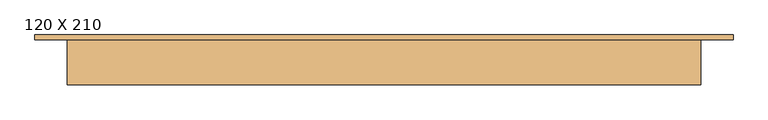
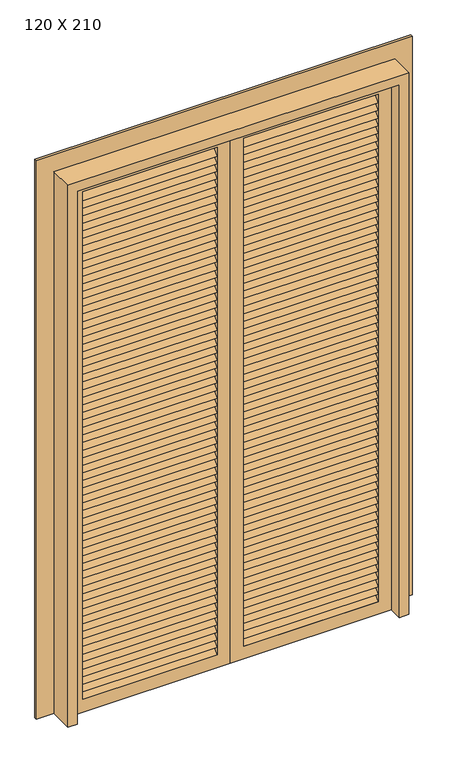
"""IFC4 building model written with IfcOpenShell, lengths in millimetres: door geometry, PORTA VENEZIANA DE ABRIR PARA FORA - 2 FOLHAS : 120 X 210."""

from ifc_helpers import new_model, si_unit, frame, origin, place, context, project, spatial, polyline, outline, extrude, source, transform, mapped, element, save


def door_120_x_210_e39afd73(model_context):
    return source(origin(), model_context, "Body", "SweptSolid", [
        extrude(outline(polyline([(40.0, 1985.2272727), (35.0, 1985.2272727), (70.0, 2020.2272727), (75.0, 2020.2272727), (40.0, 1985.2272727)])), frame((130.0, 0.0, 0.0), z_axis=(1.0, 0.0, 0.0), x_axis=(0.0, 1.0, 0.0)), (0.0, 0.0, 1.0), 500.0),
        extrude(outline(polyline([(40.0, 1955.4545455), (35.0, 1955.4545455), (70.0, 1990.4545455), (75.0, 1990.4545455), (40.0, 1955.4545455)])), frame((130.0, 0.0, 0.0), z_axis=(1.0, 0.0, 0.0), x_axis=(0.0, 1.0, 0.0)), (0.0, 0.0, 1.0), 500.0),
        extrude(outline(polyline([(40.0, 1925.6818182), (35.0, 1925.6818182), (70.0, 1960.6818182), (75.0, 1960.6818182), (40.0, 1925.6818182)])), frame((130.0, 0.0, 0.0), z_axis=(1.0, 0.0, 0.0), x_axis=(0.0, 1.0, 0.0)), (0.0, 0.0, 1.0), 500.0),
        extrude(outline(polyline([(40.0, 1895.9090909), (35.0, 1895.9090909), (70.0, 1930.9090909), (75.0, 1930.9090909), (40.0, 1895.9090909)])), frame((130.0, 0.0, 0.0), z_axis=(1.0, 0.0, 0.0), x_axis=(0.0, 1.0, 0.0)), (0.0, 0.0, 1.0), 500.0),
        extrude(outline(polyline([(40.0, 1866.1363636), (35.0, 1866.1363636), (70.0, 1901.1363636), (75.0, 1901.1363636), (40.0, 1866.1363636)])), frame((130.0, 0.0, 0.0), z_axis=(1.0, 0.0, 0.0), x_axis=(0.0, 1.0, 0.0)), (0.0, 0.0, 1.0), 500.0),
        extrude(outline(polyline([(40.0, 1836.3636364), (35.0, 1836.3636364), (70.0, 1871.3636364), (75.0, 1871.3636364), (40.0, 1836.3636364)])), frame((130.0, 0.0, 0.0), z_axis=(1.0, 0.0, 0.0), x_axis=(0.0, 1.0, 0.0)), (0.0, 0.0, 1.0), 500.0),
        extrude(outline(polyline([(40.0, 1806.5909091), (35.0, 1806.5909091), (70.0, 1841.5909091), (75.0, 1841.5909091), (40.0, 1806.5909091)])), frame((130.0, 0.0, 0.0), z_axis=(1.0, 0.0, 0.0), x_axis=(0.0, 1.0, 0.0)), (0.0, 0.0, 1.0), 500.0),
        extrude(outline(polyline([(40.0, 1776.8181818), (35.0, 1776.8181818), (70.0, 1811.8181818), (75.0, 1811.8181818), (40.0, 1776.8181818)])), frame((130.0, 0.0, 0.0), z_axis=(1.0, 0.0, 0.0), x_axis=(0.0, 1.0, 0.0)), (0.0, 0.0, 1.0), 500.0),
        extrude(outline(polyline([(40.0, 1747.0454545), (35.0, 1747.0454545), (70.0, 1782.0454545), (75.0, 1782.0454545), (40.0, 1747.0454545)])), frame((130.0, 0.0, 0.0), z_axis=(1.0, 0.0, 0.0), x_axis=(0.0, 1.0, 0.0)), (0.0, 0.0, 1.0), 500.0),
        extrude(outline(polyline([(40.0, 1717.2727273), (35.0, 1717.2727273), (70.0, 1752.2727273), (75.0, 1752.2727273), (40.0, 1717.2727273)])), frame((130.0, 0.0, 0.0), z_axis=(1.0, 0.0, 0.0), x_axis=(0.0, 1.0, 0.0)), (0.0, 0.0, 1.0), 500.0),
        extrude(outline(polyline([(40.0, 1687.5), (35.0, 1687.5), (70.0, 1722.5), (75.0, 1722.5), (40.0, 1687.5)])), frame((130.0, 0.0, 0.0), z_axis=(1.0, 0.0, 0.0), x_axis=(0.0, 1.0, 0.0)), (0.0, 0.0, 1.0), 500.0),
        extrude(outline(polyline([(40.0, 1657.7272727), (35.0, 1657.7272727), (70.0, 1692.7272727), (75.0, 1692.7272727), (40.0, 1657.7272727)])), frame((130.0, 0.0, 0.0), z_axis=(1.0, 0.0, 0.0), x_axis=(0.0, 1.0, 0.0)), (0.0, 0.0, 1.0), 500.0),
        extrude(outline(polyline([(40.0, 1627.9545455), (35.0, 1627.9545455), (70.0, 1662.9545455), (75.0, 1662.9545455), (40.0, 1627.9545455)])), frame((130.0, 0.0, 0.0), z_axis=(1.0, 0.0, 0.0), x_axis=(0.0, 1.0, 0.0)), (0.0, 0.0, 1.0), 500.0),
        extrude(outline(polyline([(40.0, 1598.1818182), (35.0, 1598.1818182), (70.0, 1633.1818182), (75.0, 1633.1818182), (40.0, 1598.1818182)])), frame((130.0, 0.0, 0.0), z_axis=(1.0, 0.0, 0.0), x_axis=(0.0, 1.0, 0.0)), (0.0, 0.0, 1.0), 500.0),
        extrude(outline(polyline([(40.0, 1568.4090909), (35.0, 1568.4090909), (70.0, 1603.4090909), (75.0, 1603.4090909), (40.0, 1568.4090909)])), frame((130.0, 0.0, 0.0), z_axis=(1.0, 0.0, 0.0), x_axis=(0.0, 1.0, 0.0)), (0.0, 0.0, 1.0), 500.0),
        extrude(outline(polyline([(40.0, 1538.6363636), (35.0, 1538.6363636), (70.0, 1573.6363636), (75.0, 1573.6363636), (40.0, 1538.6363636)])), frame((130.0, 0.0, 0.0), z_axis=(1.0, 0.0, 0.0), x_axis=(0.0, 1.0, 0.0)), (0.0, 0.0, 1.0), 500.0),
        extrude(outline(polyline([(40.0, 1508.8636364), (35.0, 1508.8636364), (70.0, 1543.8636364), (75.0, 1543.8636364), (40.0, 1508.8636364)])), frame((130.0, 0.0, 0.0), z_axis=(1.0, 0.0, 0.0), x_axis=(0.0, 1.0, 0.0)), (0.0, 0.0, 1.0), 500.0),
        extrude(outline(polyline([(40.0, 1479.0909091), (35.0, 1479.0909091), (70.0, 1514.0909091), (75.0, 1514.0909091), (40.0, 1479.0909091)])), frame((130.0, 0.0, 0.0), z_axis=(1.0, 0.0, 0.0), x_axis=(0.0, 1.0, 0.0)), (0.0, 0.0, 1.0), 500.0),
        extrude(outline(polyline([(40.0, 1449.3181818), (35.0, 1449.3181818), (70.0, 1484.3181818), (75.0, 1484.3181818), (40.0, 1449.3181818)])), frame((130.0, 0.0, 0.0), z_axis=(1.0, 0.0, 0.0), x_axis=(0.0, 1.0, 0.0)), (0.0, 0.0, 1.0), 500.0),
        extrude(outline(polyline([(40.0, 1419.5454545), (35.0, 1419.5454545), (70.0, 1454.5454545), (75.0, 1454.5454545), (40.0, 1419.5454545)])), frame((130.0, 0.0, 0.0), z_axis=(1.0, 0.0, 0.0), x_axis=(0.0, 1.0, 0.0)), (0.0, 0.0, 1.0), 500.0),
        extrude(outline(polyline([(40.0, 1389.7727273), (35.0, 1389.7727273), (70.0, 1424.7727273), (75.0, 1424.7727273), (40.0, 1389.7727273)])), frame((130.0, 0.0, 0.0), z_axis=(1.0, 0.0, 0.0), x_axis=(0.0, 1.0, 0.0)), (0.0, 0.0, 1.0), 500.0),
        extrude(outline(polyline([(40.0, 1360.0), (35.0, 1360.0), (70.0, 1395.0), (75.0, 1395.0), (40.0, 1360.0)])), frame((130.0, 0.0, 0.0), z_axis=(1.0, 0.0, 0.0), x_axis=(0.0, 1.0, 0.0)), (0.0, 0.0, 1.0), 500.0),
        extrude(outline(polyline([(40.0, 1330.2272727), (35.0, 1330.2272727), (70.0, 1365.2272727), (75.0, 1365.2272727), (40.0, 1330.2272727)])), frame((130.0, 0.0, 0.0), z_axis=(1.0, 0.0, 0.0), x_axis=(0.0, 1.0, 0.0)), (0.0, 0.0, 1.0), 500.0),
        extrude(outline(polyline([(40.0, 1300.4545455), (35.0, 1300.4545455), (70.0, 1335.4545455), (75.0, 1335.4545455), (40.0, 1300.4545455)])), frame((130.0, 0.0, 0.0), z_axis=(1.0, 0.0, 0.0), x_axis=(0.0, 1.0, 0.0)), (0.0, 0.0, 1.0), 500.0),
        extrude(outline(polyline([(40.0, 1270.6818182), (35.0, 1270.6818182), (70.0, 1305.6818182), (75.0, 1305.6818182), (40.0, 1270.6818182)])), frame((130.0, 0.0, 0.0), z_axis=(1.0, 0.0, 0.0), x_axis=(0.0, 1.0, 0.0)), (0.0, 0.0, 1.0), 500.0),
        extrude(outline(polyline([(40.0, 1240.9090909), (35.0, 1240.9090909), (70.0, 1275.9090909), (75.0, 1275.9090909), (40.0, 1240.9090909)])), frame((130.0, 0.0, 0.0), z_axis=(1.0, 0.0, 0.0), x_axis=(0.0, 1.0, 0.0)), (0.0, 0.0, 1.0), 500.0),
        extrude(outline(polyline([(40.0, 1211.1363636), (35.0, 1211.1363636), (70.0, 1246.1363636), (75.0, 1246.1363636), (40.0, 1211.1363636)])), frame((130.0, 0.0, 0.0), z_axis=(1.0, 0.0, 0.0), x_axis=(0.0, 1.0, 0.0)), (0.0, 0.0, 1.0), 500.0),
        extrude(outline(polyline([(40.0, 1181.3636364), (35.0, 1181.3636364), (70.0, 1216.3636364), (75.0, 1216.3636364), (40.0, 1181.3636364)])), frame((130.0, 0.0, 0.0), z_axis=(1.0, 0.0, 0.0), x_axis=(0.0, 1.0, 0.0)), (0.0, 0.0, 1.0), 500.0),
        extrude(outline(polyline([(40.0, 1151.5909091), (35.0, 1151.5909091), (70.0, 1186.5909091), (75.0, 1186.5909091), (40.0, 1151.5909091)])), frame((130.0, 0.0, 0.0), z_axis=(1.0, 0.0, 0.0), x_axis=(0.0, 1.0, 0.0)), (0.0, 0.0, 1.0), 500.0),
        extrude(outline(polyline([(40.0, 1121.8181818), (35.0, 1121.8181818), (70.0, 1156.8181818), (75.0, 1156.8181818), (40.0, 1121.8181818)])), frame((130.0, 0.0, 0.0), z_axis=(1.0, 0.0, 0.0), x_axis=(0.0, 1.0, 0.0)), (0.0, 0.0, 1.0), 500.0),
        extrude(outline(polyline([(40.0, 1092.0454545), (35.0, 1092.0454545), (70.0, 1127.0454545), (75.0, 1127.0454545), (40.0, 1092.0454545)])), frame((130.0, 0.0, 0.0), z_axis=(1.0, 0.0, 0.0), x_axis=(0.0, 1.0, 0.0)), (0.0, 0.0, 1.0), 500.0),
        extrude(outline(polyline([(40.0, 1062.2727273), (35.0, 1062.2727273), (70.0, 1097.2727273), (75.0, 1097.2727273), (40.0, 1062.2727273)])), frame((130.0, 0.0, 0.0), z_axis=(1.0, 0.0, 0.0), x_axis=(0.0, 1.0, 0.0)), (0.0, 0.0, 1.0), 500.0),
        extrude(outline(polyline([(40.0, 1032.5), (35.0, 1032.5), (70.0, 1067.5), (75.0, 1067.5), (40.0, 1032.5)])), frame((130.0, 0.0, 0.0), z_axis=(1.0, 0.0, 0.0), x_axis=(0.0, 1.0, 0.0)), (0.0, 0.0, 1.0), 500.0),
        extrude(outline(polyline([(40.0, 1002.7272727), (35.0, 1002.7272727), (70.0, 1037.7272727), (75.0, 1037.7272727), (40.0, 1002.7272727)])), frame((130.0, 0.0, 0.0), z_axis=(1.0, 0.0, 0.0), x_axis=(0.0, 1.0, 0.0)), (0.0, 0.0, 1.0), 500.0),
        extrude(outline(polyline([(40.0, 972.9545455), (35.0, 972.9545455), (70.0, 1007.9545455), (75.0, 1007.9545455), (40.0, 972.9545455)])), frame((130.0, 0.0, 0.0), z_axis=(1.0, 0.0, 0.0), x_axis=(0.0, 1.0, 0.0)), (0.0, 0.0, 1.0), 500.0),
        extrude(outline(polyline([(40.0, 943.1818182), (35.0, 943.1818182), (70.0, 978.1818182), (75.0, 978.1818182), (40.0, 943.1818182)])), frame((130.0, 0.0, 0.0), z_axis=(1.0, 0.0, 0.0), x_axis=(0.0, 1.0, 0.0)), (0.0, 0.0, 1.0), 500.0),
        extrude(outline(polyline([(40.0, 913.4090909), (35.0, 913.4090909), (70.0, 948.4090909), (75.0, 948.4090909), (40.0, 913.4090909)])), frame((130.0, 0.0, 0.0), z_axis=(1.0, 0.0, 0.0), x_axis=(0.0, 1.0, 0.0)), (0.0, 0.0, 1.0), 500.0),
        extrude(outline(polyline([(40.0, 883.6363636), (35.0, 883.6363636), (70.0, 918.6363636), (75.0, 918.6363636), (40.0, 883.6363636)])), frame((130.0, 0.0, 0.0), z_axis=(1.0, 0.0, 0.0), x_axis=(0.0, 1.0, 0.0)), (0.0, 0.0, 1.0), 500.0),
        extrude(outline(polyline([(40.0, 853.8636364), (35.0, 853.8636364), (70.0, 888.8636364), (75.0, 888.8636364), (40.0, 853.8636364)])), frame((130.0, 0.0, 0.0), z_axis=(1.0, 0.0, 0.0), x_axis=(0.0, 1.0, 0.0)), (0.0, 0.0, 1.0), 500.0),
        extrude(outline(polyline([(40.0, 824.0909091), (35.0, 824.0909091), (70.0, 859.0909091), (75.0, 859.0909091), (40.0, 824.0909091)])), frame((130.0, 0.0, 0.0), z_axis=(1.0, 0.0, 0.0), x_axis=(0.0, 1.0, 0.0)), (0.0, 0.0, 1.0), 500.0),
        extrude(outline(polyline([(40.0, 794.3181818), (35.0, 794.3181818), (70.0, 829.3181818), (75.0, 829.3181818), (40.0, 794.3181818)])), frame((130.0, 0.0, 0.0), z_axis=(1.0, 0.0, 0.0), x_axis=(0.0, 1.0, 0.0)), (0.0, 0.0, 1.0), 500.0),
        extrude(outline(polyline([(40.0, 764.5454545), (35.0, 764.5454545), (70.0, 799.5454545), (75.0, 799.5454545), (40.0, 764.5454545)])), frame((130.0, 0.0, 0.0), z_axis=(1.0, 0.0, 0.0), x_axis=(0.0, 1.0, 0.0)), (0.0, 0.0, 1.0), 500.0),
        extrude(outline(polyline([(40.0, 734.7727273), (35.0, 734.7727273), (70.0, 769.7727273), (75.0, 769.7727273), (40.0, 734.7727273)])), frame((130.0, 0.0, 0.0), z_axis=(1.0, 0.0, 0.0), x_axis=(0.0, 1.0, 0.0)), (0.0, 0.0, 1.0), 500.0),
        extrude(outline(polyline([(40.0, 705.0), (35.0, 705.0), (70.0, 740.0), (75.0, 740.0), (40.0, 705.0)])), frame((130.0, 0.0, 0.0), z_axis=(1.0, 0.0, 0.0), x_axis=(0.0, 1.0, 0.0)), (0.0, 0.0, 1.0), 500.0),
        extrude(outline(polyline([(40.0, 675.2272727), (35.0, 675.2272727), (70.0, 710.2272727), (75.0, 710.2272727), (40.0, 675.2272727)])), frame((130.0, 0.0, 0.0), z_axis=(1.0, 0.0, 0.0), x_axis=(0.0, 1.0, 0.0)), (0.0, 0.0, 1.0), 500.0),
        extrude(outline(polyline([(40.0, 645.4545455), (35.0, 645.4545455), (70.0, 680.4545455), (75.0, 680.4545455), (40.0, 645.4545455)])), frame((130.0, 0.0, 0.0), z_axis=(1.0, 0.0, 0.0), x_axis=(0.0, 1.0, 0.0)), (0.0, 0.0, 1.0), 500.0),
        extrude(outline(polyline([(40.0, 615.6818182), (35.0, 615.6818182), (70.0, 650.6818182), (75.0, 650.6818182), (40.0, 615.6818182)])), frame((130.0, 0.0, 0.0), z_axis=(1.0, 0.0, 0.0), x_axis=(0.0, 1.0, 0.0)), (0.0, 0.0, 1.0), 500.0),
        extrude(outline(polyline([(40.0, 585.9090909), (35.0, 585.9090909), (70.0, 620.9090909), (75.0, 620.9090909), (40.0, 585.9090909)])), frame((130.0, 0.0, 0.0), z_axis=(1.0, 0.0, 0.0), x_axis=(0.0, 1.0, 0.0)), (0.0, 0.0, 1.0), 500.0),
        extrude(outline(polyline([(40.0, 556.1363636), (35.0, 556.1363636), (70.0, 591.1363636), (75.0, 591.1363636), (40.0, 556.1363636)])), frame((130.0, 0.0, 0.0), z_axis=(1.0, 0.0, 0.0), x_axis=(0.0, 1.0, 0.0)), (0.0, 0.0, 1.0), 500.0),
        extrude(outline(polyline([(40.0, 526.3636364), (35.0, 526.3636364), (70.0, 561.3636364), (75.0, 561.3636364), (40.0, 526.3636364)])), frame((130.0, 0.0, 0.0), z_axis=(1.0, 0.0, 0.0), x_axis=(0.0, 1.0, 0.0)), (0.0, 0.0, 1.0), 500.0),
        extrude(outline(polyline([(40.0, 496.5909091), (35.0, 496.5909091), (70.0, 531.5909091), (75.0, 531.5909091), (40.0, 496.5909091)])), frame((130.0, 0.0, 0.0), z_axis=(1.0, 0.0, 0.0), x_axis=(0.0, 1.0, 0.0)), (0.0, 0.0, 1.0), 500.0),
        extrude(outline(polyline([(40.0, 466.8181818), (35.0, 466.8181818), (70.0, 501.8181818), (75.0, 501.8181818), (40.0, 466.8181818)])), frame((130.0, 0.0, 0.0), z_axis=(1.0, 0.0, 0.0), x_axis=(0.0, 1.0, 0.0)), (0.0, 0.0, 1.0), 500.0),
        extrude(outline(polyline([(40.0, 437.0454545), (35.0, 437.0454545), (70.0, 472.0454545), (75.0, 472.0454545), (40.0, 437.0454545)])), frame((130.0, 0.0, 0.0), z_axis=(1.0, 0.0, 0.0), x_axis=(0.0, 1.0, 0.0)), (0.0, 0.0, 1.0), 500.0),
        extrude(outline(polyline([(40.0, 407.2727273), (35.0, 407.2727273), (70.0, 442.2727273), (75.0, 442.2727273), (40.0, 407.2727273)])), frame((130.0, 0.0, 0.0), z_axis=(1.0, 0.0, 0.0), x_axis=(0.0, 1.0, 0.0)), (0.0, 0.0, 1.0), 500.0),
        extrude(outline(polyline([(40.0, 377.5), (35.0, 377.5), (70.0, 412.5), (75.0, 412.5), (40.0, 377.5)])), frame((130.0, 0.0, 0.0), z_axis=(1.0, 0.0, 0.0), x_axis=(0.0, 1.0, 0.0)), (0.0, 0.0, 1.0), 500.0),
        extrude(outline(polyline([(40.0, 347.7272727), (35.0, 347.7272727), (70.0, 382.7272727), (75.0, 382.7272727), (40.0, 347.7272727)])), frame((130.0, 0.0, 0.0), z_axis=(1.0, 0.0, 0.0), x_axis=(0.0, 1.0, 0.0)), (0.0, 0.0, 1.0), 500.0),
        extrude(outline(polyline([(40.0, 317.9545455), (35.0, 317.9545455), (70.0, 352.9545455), (75.0, 352.9545455), (40.0, 317.9545455)])), frame((130.0, 0.0, 0.0), z_axis=(1.0, 0.0, 0.0), x_axis=(0.0, 1.0, 0.0)), (0.0, 0.0, 1.0), 500.0),
        extrude(outline(polyline([(40.0, 288.1818182), (35.0, 288.1818182), (70.0, 323.1818182), (75.0, 323.1818182), (40.0, 288.1818182)])), frame((130.0, 0.0, 0.0), z_axis=(1.0, 0.0, 0.0), x_axis=(0.0, 1.0, 0.0)), (0.0, 0.0, 1.0), 500.0),
        extrude(outline(polyline([(40.0, 258.4090909), (35.0, 258.4090909), (70.0, 293.4090909), (75.0, 293.4090909), (40.0, 258.4090909)])), frame((130.0, 0.0, 0.0), z_axis=(1.0, 0.0, 0.0), x_axis=(0.0, 1.0, 0.0)), (0.0, 0.0, 1.0), 500.0),
        extrude(outline(polyline([(40.0, 228.6363636), (35.0, 228.6363636), (70.0, 263.6363636), (75.0, 263.6363636), (40.0, 228.6363636)])), frame((130.0, 0.0, 0.0), z_axis=(1.0, 0.0, 0.0), x_axis=(0.0, 1.0, 0.0)), (0.0, 0.0, 1.0), 500.0),
        extrude(outline(polyline([(40.0, 198.8636364), (35.0, 198.8636364), (70.0, 233.8636364), (75.0, 233.8636364), (40.0, 198.8636364)])), frame((130.0, 0.0, 0.0), z_axis=(1.0, 0.0, 0.0), x_axis=(0.0, 1.0, 0.0)), (0.0, 0.0, 1.0), 500.0),
        extrude(outline(polyline([(40.0, 169.0909091), (35.0, 169.0909091), (70.0, 204.0909091), (75.0, 204.0909091), (40.0, 169.0909091)])), frame((130.0, 0.0, 0.0), z_axis=(1.0, 0.0, 0.0), x_axis=(0.0, 1.0, 0.0)), (0.0, 0.0, 1.0), 500.0),
        extrude(outline(polyline([(40.0, 139.3181818), (35.0, 139.3181818), (70.0, 174.3181818), (75.0, 174.3181818), (40.0, 139.3181818)])), frame((130.0, 0.0, 0.0), z_axis=(1.0, 0.0, 0.0), x_axis=(0.0, 1.0, 0.0)), (0.0, 0.0, 1.0), 500.0),
        extrude(outline(polyline([(40.0, 109.5454545), (35.0, 109.5454545), (70.0, 144.5454545), (75.0, 144.5454545), (40.0, 109.5454545)])), frame((130.0, 0.0, 0.0), z_axis=(1.0, 0.0, 0.0), x_axis=(0.0, 1.0, 0.0)), (0.0, 0.0, 1.0), 500.0),
        extrude(outline(polyline([(40.0, 79.7727273), (35.0, 79.7727273), (70.0, 114.7727273), (75.0, 114.7727273), (40.0, 79.7727273)])), frame((130.0, 0.0, 0.0), z_axis=(1.0, 0.0, 0.0), x_axis=(0.0, 1.0, 0.0)), (0.0, 0.0, 1.0), 500.0),
        extrude(outline(polyline([(40.0, 2015.0), (35.0, 2015.0), (70.0, 2050.0), (75.0, 2050.0), (40.0, 2015.0)])), frame((130.0, 0.0, 0.0), z_axis=(1.0, 0.0, 0.0), x_axis=(0.0, 1.0, 0.0)), (0.0, 0.0, 1.0), 500.0),
        extrude(outline(polyline([(40.0, 50.0), (35.0, 50.0), (70.0, 85.0), (75.0, 85.0), (40.0, 50.0)])), frame((130.0, 0.0, 0.0), z_axis=(1.0, 0.0, 0.0), x_axis=(0.0, 1.0, 0.0)), (0.0, 0.0, 1.0), 500.0),
        extrude(outline(polyline([(2100.0, 80.0), (0.0, 80.0), (0.0, 680.0), (2100.0, 680.0), (2100.0, 80.0)]), holes=[polyline([(2050.0, 130.0), (2050.0, 630.0), (50.0, 630.0), (50.0, 130.0), (2050.0, 130.0)])]), frame((0.0, 35.0, 0.0), z_axis=(0.0, 1.0, 0.0), x_axis=(0.0, 0.0, 1.0)), (0.0, 0.0, 1.0), 40.0),
        extrude(outline(polyline([(40.0, 1985.2272727), (35.0, 1985.2272727), (70.0, 2020.2272727), (75.0, 2020.2272727), (40.0, 1985.2272727)])), frame((-470.0, 0.0, 0.0), z_axis=(1.0, 0.0, 0.0), x_axis=(0.0, 1.0, 0.0)), (0.0, 0.0, 1.0), 500.0),
        extrude(outline(polyline([(40.0, 1955.4545455), (35.0, 1955.4545455), (70.0, 1990.4545455), (75.0, 1990.4545455), (40.0, 1955.4545455)])), frame((-470.0, 0.0, 0.0), z_axis=(1.0, 0.0, 0.0), x_axis=(0.0, 1.0, 0.0)), (0.0, 0.0, 1.0), 500.0),
        extrude(outline(polyline([(40.0, 1925.6818182), (35.0, 1925.6818182), (70.0, 1960.6818182), (75.0, 1960.6818182), (40.0, 1925.6818182)])), frame((-470.0, 0.0, 0.0), z_axis=(1.0, 0.0, 0.0), x_axis=(0.0, 1.0, 0.0)), (0.0, 0.0, 1.0), 500.0),
        extrude(outline(polyline([(40.0, 1895.9090909), (35.0, 1895.9090909), (70.0, 1930.9090909), (75.0, 1930.9090909), (40.0, 1895.9090909)])), frame((-470.0, 0.0, 0.0), z_axis=(1.0, 0.0, 0.0), x_axis=(0.0, 1.0, 0.0)), (0.0, 0.0, 1.0), 500.0),
        extrude(outline(polyline([(40.0, 1866.1363636), (35.0, 1866.1363636), (70.0, 1901.1363636), (75.0, 1901.1363636), (40.0, 1866.1363636)])), frame((-470.0, 0.0, 0.0), z_axis=(1.0, 0.0, 0.0), x_axis=(0.0, 1.0, 0.0)), (0.0, 0.0, 1.0), 500.0),
        extrude(outline(polyline([(40.0, 1836.3636364), (35.0, 1836.3636364), (70.0, 1871.3636364), (75.0, 1871.3636364), (40.0, 1836.3636364)])), frame((-470.0, 0.0, 0.0), z_axis=(1.0, 0.0, 0.0), x_axis=(0.0, 1.0, 0.0)), (0.0, 0.0, 1.0), 500.0),
        extrude(outline(polyline([(40.0, 1806.5909091), (35.0, 1806.5909091), (70.0, 1841.5909091), (75.0, 1841.5909091), (40.0, 1806.5909091)])), frame((-470.0, 0.0, 0.0), z_axis=(1.0, 0.0, 0.0), x_axis=(0.0, 1.0, 0.0)), (0.0, 0.0, 1.0), 500.0),
        extrude(outline(polyline([(40.0, 1776.8181818), (35.0, 1776.8181818), (70.0, 1811.8181818), (75.0, 1811.8181818), (40.0, 1776.8181818)])), frame((-470.0, 0.0, 0.0), z_axis=(1.0, 0.0, 0.0), x_axis=(0.0, 1.0, 0.0)), (0.0, 0.0, 1.0), 500.0),
        extrude(outline(polyline([(40.0, 1747.0454545), (35.0, 1747.0454545), (70.0, 1782.0454545), (75.0, 1782.0454545), (40.0, 1747.0454545)])), frame((-470.0, 0.0, 0.0), z_axis=(1.0, 0.0, 0.0), x_axis=(0.0, 1.0, 0.0)), (0.0, 0.0, 1.0), 500.0),
        extrude(outline(polyline([(40.0, 1717.2727273), (35.0, 1717.2727273), (70.0, 1752.2727273), (75.0, 1752.2727273), (40.0, 1717.2727273)])), frame((-470.0, 0.0, 0.0), z_axis=(1.0, 0.0, 0.0), x_axis=(0.0, 1.0, 0.0)), (0.0, 0.0, 1.0), 500.0),
        extrude(outline(polyline([(40.0, 1687.5), (35.0, 1687.5), (70.0, 1722.5), (75.0, 1722.5), (40.0, 1687.5)])), frame((-470.0, 0.0, 0.0), z_axis=(1.0, 0.0, 0.0), x_axis=(0.0, 1.0, 0.0)), (0.0, 0.0, 1.0), 500.0),
        extrude(outline(polyline([(40.0, 1657.7272727), (35.0, 1657.7272727), (70.0, 1692.7272727), (75.0, 1692.7272727), (40.0, 1657.7272727)])), frame((-470.0, 0.0, 0.0), z_axis=(1.0, 0.0, 0.0), x_axis=(0.0, 1.0, 0.0)), (0.0, 0.0, 1.0), 500.0),
        extrude(outline(polyline([(40.0, 1627.9545455), (35.0, 1627.9545455), (70.0, 1662.9545455), (75.0, 1662.9545455), (40.0, 1627.9545455)])), frame((-470.0, 0.0, 0.0), z_axis=(1.0, 0.0, 0.0), x_axis=(0.0, 1.0, 0.0)), (0.0, 0.0, 1.0), 500.0),
        extrude(outline(polyline([(40.0, 1598.1818182), (35.0, 1598.1818182), (70.0, 1633.1818182), (75.0, 1633.1818182), (40.0, 1598.1818182)])), frame((-470.0, 0.0, 0.0), z_axis=(1.0, 0.0, 0.0), x_axis=(0.0, 1.0, 0.0)), (0.0, 0.0, 1.0), 500.0),
        extrude(outline(polyline([(40.0, 1568.4090909), (35.0, 1568.4090909), (70.0, 1603.4090909), (75.0, 1603.4090909), (40.0, 1568.4090909)])), frame((-470.0, 0.0, 0.0), z_axis=(1.0, 0.0, 0.0), x_axis=(0.0, 1.0, 0.0)), (0.0, 0.0, 1.0), 500.0),
        extrude(outline(polyline([(40.0, 1538.6363636), (35.0, 1538.6363636), (70.0, 1573.6363636), (75.0, 1573.6363636), (40.0, 1538.6363636)])), frame((-470.0, 0.0, 0.0), z_axis=(1.0, 0.0, 0.0), x_axis=(0.0, 1.0, 0.0)), (0.0, 0.0, 1.0), 500.0),
        extrude(outline(polyline([(40.0, 1508.8636364), (35.0, 1508.8636364), (70.0, 1543.8636364), (75.0, 1543.8636364), (40.0, 1508.8636364)])), frame((-470.0, 0.0, 0.0), z_axis=(1.0, 0.0, 0.0), x_axis=(0.0, 1.0, 0.0)), (0.0, 0.0, 1.0), 500.0),
        extrude(outline(polyline([(40.0, 1479.0909091), (35.0, 1479.0909091), (70.0, 1514.0909091), (75.0, 1514.0909091), (40.0, 1479.0909091)])), frame((-470.0, 0.0, 0.0), z_axis=(1.0, 0.0, 0.0), x_axis=(0.0, 1.0, 0.0)), (0.0, 0.0, 1.0), 500.0),
        extrude(outline(polyline([(40.0, 1449.3181818), (35.0, 1449.3181818), (70.0, 1484.3181818), (75.0, 1484.3181818), (40.0, 1449.3181818)])), frame((-470.0, 0.0, 0.0), z_axis=(1.0, 0.0, 0.0), x_axis=(0.0, 1.0, 0.0)), (0.0, 0.0, 1.0), 500.0),
        extrude(outline(polyline([(40.0, 1419.5454545), (35.0, 1419.5454545), (70.0, 1454.5454545), (75.0, 1454.5454545), (40.0, 1419.5454545)])), frame((-470.0, 0.0, 0.0), z_axis=(1.0, 0.0, 0.0), x_axis=(0.0, 1.0, 0.0)), (0.0, 0.0, 1.0), 500.0),
        extrude(outline(polyline([(40.0, 1389.7727273), (35.0, 1389.7727273), (70.0, 1424.7727273), (75.0, 1424.7727273), (40.0, 1389.7727273)])), frame((-470.0, 0.0, 0.0), z_axis=(1.0, 0.0, 0.0), x_axis=(0.0, 1.0, 0.0)), (0.0, 0.0, 1.0), 500.0),
        extrude(outline(polyline([(40.0, 1360.0), (35.0, 1360.0), (70.0, 1395.0), (75.0, 1395.0), (40.0, 1360.0)])), frame((-470.0, 0.0, 0.0), z_axis=(1.0, 0.0, 0.0), x_axis=(0.0, 1.0, 0.0)), (0.0, 0.0, 1.0), 500.0),
        extrude(outline(polyline([(40.0, 1330.2272727), (35.0, 1330.2272727), (70.0, 1365.2272727), (75.0, 1365.2272727), (40.0, 1330.2272727)])), frame((-470.0, 0.0, 0.0), z_axis=(1.0, 0.0, 0.0), x_axis=(0.0, 1.0, 0.0)), (0.0, 0.0, 1.0), 500.0),
        extrude(outline(polyline([(40.0, 1300.4545455), (35.0, 1300.4545455), (70.0, 1335.4545455), (75.0, 1335.4545455), (40.0, 1300.4545455)])), frame((-470.0, 0.0, 0.0), z_axis=(1.0, 0.0, 0.0), x_axis=(0.0, 1.0, 0.0)), (0.0, 0.0, 1.0), 500.0),
        extrude(outline(polyline([(40.0, 1270.6818182), (35.0, 1270.6818182), (70.0, 1305.6818182), (75.0, 1305.6818182), (40.0, 1270.6818182)])), frame((-470.0, 0.0, 0.0), z_axis=(1.0, 0.0, 0.0), x_axis=(0.0, 1.0, 0.0)), (0.0, 0.0, 1.0), 500.0),
        extrude(outline(polyline([(40.0, 1240.9090909), (35.0, 1240.9090909), (70.0, 1275.9090909), (75.0, 1275.9090909), (40.0, 1240.9090909)])), frame((-470.0, 0.0, 0.0), z_axis=(1.0, 0.0, 0.0), x_axis=(0.0, 1.0, 0.0)), (0.0, 0.0, 1.0), 500.0),
        extrude(outline(polyline([(40.0, 1211.1363636), (35.0, 1211.1363636), (70.0, 1246.1363636), (75.0, 1246.1363636), (40.0, 1211.1363636)])), frame((-470.0, 0.0, 0.0), z_axis=(1.0, 0.0, 0.0), x_axis=(0.0, 1.0, 0.0)), (0.0, 0.0, 1.0), 500.0),
        extrude(outline(polyline([(40.0, 1181.3636364), (35.0, 1181.3636364), (70.0, 1216.3636364), (75.0, 1216.3636364), (40.0, 1181.3636364)])), frame((-470.0, 0.0, 0.0), z_axis=(1.0, 0.0, 0.0), x_axis=(0.0, 1.0, 0.0)), (0.0, 0.0, 1.0), 500.0),
        extrude(outline(polyline([(40.0, 1151.5909091), (35.0, 1151.5909091), (70.0, 1186.5909091), (75.0, 1186.5909091), (40.0, 1151.5909091)])), frame((-470.0, 0.0, 0.0), z_axis=(1.0, 0.0, 0.0), x_axis=(0.0, 1.0, 0.0)), (0.0, 0.0, 1.0), 500.0),
        extrude(outline(polyline([(40.0, 1121.8181818), (35.0, 1121.8181818), (70.0, 1156.8181818), (75.0, 1156.8181818), (40.0, 1121.8181818)])), frame((-470.0, 0.0, 0.0), z_axis=(1.0, 0.0, 0.0), x_axis=(0.0, 1.0, 0.0)), (0.0, 0.0, 1.0), 500.0),
        extrude(outline(polyline([(40.0, 1092.0454545), (35.0, 1092.0454545), (70.0, 1127.0454545), (75.0, 1127.0454545), (40.0, 1092.0454545)])), frame((-470.0, 0.0, 0.0), z_axis=(1.0, 0.0, 0.0), x_axis=(0.0, 1.0, 0.0)), (0.0, 0.0, 1.0), 500.0),
        extrude(outline(polyline([(40.0, 1062.2727273), (35.0, 1062.2727273), (70.0, 1097.2727273), (75.0, 1097.2727273), (40.0, 1062.2727273)])), frame((-470.0, 0.0, 0.0), z_axis=(1.0, 0.0, 0.0), x_axis=(0.0, 1.0, 0.0)), (0.0, 0.0, 1.0), 500.0),
        extrude(outline(polyline([(40.0, 1032.5), (35.0, 1032.5), (70.0, 1067.5), (75.0, 1067.5), (40.0, 1032.5)])), frame((-470.0, 0.0, 0.0), z_axis=(1.0, 0.0, 0.0), x_axis=(0.0, 1.0, 0.0)), (0.0, 0.0, 1.0), 500.0),
        extrude(outline(polyline([(40.0, 1002.7272727), (35.0, 1002.7272727), (70.0, 1037.7272727), (75.0, 1037.7272727), (40.0, 1002.7272727)])), frame((-470.0, 0.0, 0.0), z_axis=(1.0, 0.0, 0.0), x_axis=(0.0, 1.0, 0.0)), (0.0, 0.0, 1.0), 500.0),
        extrude(outline(polyline([(40.0, 972.9545455), (35.0, 972.9545455), (70.0, 1007.9545455), (75.0, 1007.9545455), (40.0, 972.9545455)])), frame((-470.0, 0.0, 0.0), z_axis=(1.0, 0.0, 0.0), x_axis=(0.0, 1.0, 0.0)), (0.0, 0.0, 1.0), 500.0),
        extrude(outline(polyline([(40.0, 943.1818182), (35.0, 943.1818182), (70.0, 978.1818182), (75.0, 978.1818182), (40.0, 943.1818182)])), frame((-470.0, 0.0, 0.0), z_axis=(1.0, 0.0, 0.0), x_axis=(0.0, 1.0, 0.0)), (0.0, 0.0, 1.0), 500.0),
        extrude(outline(polyline([(40.0, 913.4090909), (35.0, 913.4090909), (70.0, 948.4090909), (75.0, 948.4090909), (40.0, 913.4090909)])), frame((-470.0, 0.0, 0.0), z_axis=(1.0, 0.0, 0.0), x_axis=(0.0, 1.0, 0.0)), (0.0, 0.0, 1.0), 500.0),
        extrude(outline(polyline([(40.0, 883.6363636), (35.0, 883.6363636), (70.0, 918.6363636), (75.0, 918.6363636), (40.0, 883.6363636)])), frame((-470.0, 0.0, 0.0), z_axis=(1.0, 0.0, 0.0), x_axis=(0.0, 1.0, 0.0)), (0.0, 0.0, 1.0), 500.0),
        extrude(outline(polyline([(40.0, 853.8636364), (35.0, 853.8636364), (70.0, 888.8636364), (75.0, 888.8636364), (40.0, 853.8636364)])), frame((-470.0, 0.0, 0.0), z_axis=(1.0, 0.0, 0.0), x_axis=(0.0, 1.0, 0.0)), (0.0, 0.0, 1.0), 500.0),
        extrude(outline(polyline([(40.0, 824.0909091), (35.0, 824.0909091), (70.0, 859.0909091), (75.0, 859.0909091), (40.0, 824.0909091)])), frame((-470.0, 0.0, 0.0), z_axis=(1.0, 0.0, 0.0), x_axis=(0.0, 1.0, 0.0)), (0.0, 0.0, 1.0), 500.0),
        extrude(outline(polyline([(40.0, 794.3181818), (35.0, 794.3181818), (70.0, 829.3181818), (75.0, 829.3181818), (40.0, 794.3181818)])), frame((-470.0, 0.0, 0.0), z_axis=(1.0, 0.0, 0.0), x_axis=(0.0, 1.0, 0.0)), (0.0, 0.0, 1.0), 500.0),
        extrude(outline(polyline([(40.0, 764.5454545), (35.0, 764.5454545), (70.0, 799.5454545), (75.0, 799.5454545), (40.0, 764.5454545)])), frame((-470.0, 0.0, 0.0), z_axis=(1.0, 0.0, 0.0), x_axis=(0.0, 1.0, 0.0)), (0.0, 0.0, 1.0), 500.0),
        extrude(outline(polyline([(40.0, 734.7727273), (35.0, 734.7727273), (70.0, 769.7727273), (75.0, 769.7727273), (40.0, 734.7727273)])), frame((-470.0, 0.0, 0.0), z_axis=(1.0, 0.0, 0.0), x_axis=(0.0, 1.0, 0.0)), (0.0, 0.0, 1.0), 500.0),
        extrude(outline(polyline([(40.0, 705.0), (35.0, 705.0), (70.0, 740.0), (75.0, 740.0), (40.0, 705.0)])), frame((-470.0, 0.0, 0.0), z_axis=(1.0, 0.0, 0.0), x_axis=(0.0, 1.0, 0.0)), (0.0, 0.0, 1.0), 500.0),
        extrude(outline(polyline([(40.0, 675.2272727), (35.0, 675.2272727), (70.0, 710.2272727), (75.0, 710.2272727), (40.0, 675.2272727)])), frame((-470.0, 0.0, 0.0), z_axis=(1.0, 0.0, 0.0), x_axis=(0.0, 1.0, 0.0)), (0.0, 0.0, 1.0), 500.0),
        extrude(outline(polyline([(40.0, 645.4545455), (35.0, 645.4545455), (70.0, 680.4545455), (75.0, 680.4545455), (40.0, 645.4545455)])), frame((-470.0, 0.0, 0.0), z_axis=(1.0, 0.0, 0.0), x_axis=(0.0, 1.0, 0.0)), (0.0, 0.0, 1.0), 500.0),
        extrude(outline(polyline([(40.0, 615.6818182), (35.0, 615.6818182), (70.0, 650.6818182), (75.0, 650.6818182), (40.0, 615.6818182)])), frame((-470.0, 0.0, 0.0), z_axis=(1.0, 0.0, 0.0), x_axis=(0.0, 1.0, 0.0)), (0.0, 0.0, 1.0), 500.0),
        extrude(outline(polyline([(40.0, 585.9090909), (35.0, 585.9090909), (70.0, 620.9090909), (75.0, 620.9090909), (40.0, 585.9090909)])), frame((-470.0, 0.0, 0.0), z_axis=(1.0, 0.0, 0.0), x_axis=(0.0, 1.0, 0.0)), (0.0, 0.0, 1.0), 500.0),
        extrude(outline(polyline([(40.0, 556.1363636), (35.0, 556.1363636), (70.0, 591.1363636), (75.0, 591.1363636), (40.0, 556.1363636)])), frame((-470.0, 0.0, 0.0), z_axis=(1.0, 0.0, 0.0), x_axis=(0.0, 1.0, 0.0)), (0.0, 0.0, 1.0), 500.0),
        extrude(outline(polyline([(40.0, 526.3636364), (35.0, 526.3636364), (70.0, 561.3636364), (75.0, 561.3636364), (40.0, 526.3636364)])), frame((-470.0, 0.0, 0.0), z_axis=(1.0, 0.0, 0.0), x_axis=(0.0, 1.0, 0.0)), (0.0, 0.0, 1.0), 500.0),
        extrude(outline(polyline([(40.0, 496.5909091), (35.0, 496.5909091), (70.0, 531.5909091), (75.0, 531.5909091), (40.0, 496.5909091)])), frame((-470.0, 0.0, 0.0), z_axis=(1.0, 0.0, 0.0), x_axis=(0.0, 1.0, 0.0)), (0.0, 0.0, 1.0), 500.0),
        extrude(outline(polyline([(40.0, 466.8181818), (35.0, 466.8181818), (70.0, 501.8181818), (75.0, 501.8181818), (40.0, 466.8181818)])), frame((-470.0, 0.0, 0.0), z_axis=(1.0, 0.0, 0.0), x_axis=(0.0, 1.0, 0.0)), (0.0, 0.0, 1.0), 500.0),
        extrude(outline(polyline([(40.0, 437.0454545), (35.0, 437.0454545), (70.0, 472.0454545), (75.0, 472.0454545), (40.0, 437.0454545)])), frame((-470.0, 0.0, 0.0), z_axis=(1.0, 0.0, 0.0), x_axis=(0.0, 1.0, 0.0)), (0.0, 0.0, 1.0), 500.0),
        extrude(outline(polyline([(40.0, 407.2727273), (35.0, 407.2727273), (70.0, 442.2727273), (75.0, 442.2727273), (40.0, 407.2727273)])), frame((-470.0, 0.0, 0.0), z_axis=(1.0, 0.0, 0.0), x_axis=(0.0, 1.0, 0.0)), (0.0, 0.0, 1.0), 500.0),
        extrude(outline(polyline([(40.0, 377.5), (35.0, 377.5), (70.0, 412.5), (75.0, 412.5), (40.0, 377.5)])), frame((-470.0, 0.0, 0.0), z_axis=(1.0, 0.0, 0.0), x_axis=(0.0, 1.0, 0.0)), (0.0, 0.0, 1.0), 500.0),
        extrude(outline(polyline([(40.0, 347.7272727), (35.0, 347.7272727), (70.0, 382.7272727), (75.0, 382.7272727), (40.0, 347.7272727)])), frame((-470.0, 0.0, 0.0), z_axis=(1.0, 0.0, 0.0), x_axis=(0.0, 1.0, 0.0)), (0.0, 0.0, 1.0), 500.0),
        extrude(outline(polyline([(40.0, 317.9545455), (35.0, 317.9545455), (70.0, 352.9545455), (75.0, 352.9545455), (40.0, 317.9545455)])), frame((-470.0, 0.0, 0.0), z_axis=(1.0, 0.0, 0.0), x_axis=(0.0, 1.0, 0.0)), (0.0, 0.0, 1.0), 500.0),
        extrude(outline(polyline([(40.0, 288.1818182), (35.0, 288.1818182), (70.0, 323.1818182), (75.0, 323.1818182), (40.0, 288.1818182)])), frame((-470.0, 0.0, 0.0), z_axis=(1.0, 0.0, 0.0), x_axis=(0.0, 1.0, 0.0)), (0.0, 0.0, 1.0), 500.0),
        extrude(outline(polyline([(40.0, 258.4090909), (35.0, 258.4090909), (70.0, 293.4090909), (75.0, 293.4090909), (40.0, 258.4090909)])), frame((-470.0, 0.0, 0.0), z_axis=(1.0, 0.0, 0.0), x_axis=(0.0, 1.0, 0.0)), (0.0, 0.0, 1.0), 500.0),
        extrude(outline(polyline([(40.0, 228.6363636), (35.0, 228.6363636), (70.0, 263.6363636), (75.0, 263.6363636), (40.0, 228.6363636)])), frame((-470.0, 0.0, 0.0), z_axis=(1.0, 0.0, 0.0), x_axis=(0.0, 1.0, 0.0)), (0.0, 0.0, 1.0), 500.0),
        extrude(outline(polyline([(40.0, 198.8636364), (35.0, 198.8636364), (70.0, 233.8636364), (75.0, 233.8636364), (40.0, 198.8636364)])), frame((-470.0, 0.0, 0.0), z_axis=(1.0, 0.0, 0.0), x_axis=(0.0, 1.0, 0.0)), (0.0, 0.0, 1.0), 500.0),
        extrude(outline(polyline([(40.0, 169.0909091), (35.0, 169.0909091), (70.0, 204.0909091), (75.0, 204.0909091), (40.0, 169.0909091)])), frame((-470.0, 0.0, 0.0), z_axis=(1.0, 0.0, 0.0), x_axis=(0.0, 1.0, 0.0)), (0.0, 0.0, 1.0), 500.0),
        extrude(outline(polyline([(40.0, 139.3181818), (35.0, 139.3181818), (70.0, 174.3181818), (75.0, 174.3181818), (40.0, 139.3181818)])), frame((-470.0, 0.0, 0.0), z_axis=(1.0, 0.0, 0.0), x_axis=(0.0, 1.0, 0.0)), (0.0, 0.0, 1.0), 500.0),
        extrude(outline(polyline([(40.0, 109.5454545), (35.0, 109.5454545), (70.0, 144.5454545), (75.0, 144.5454545), (40.0, 109.5454545)])), frame((-470.0, 0.0, 0.0), z_axis=(1.0, 0.0, 0.0), x_axis=(0.0, 1.0, 0.0)), (0.0, 0.0, 1.0), 500.0),
        extrude(outline(polyline([(40.0, 79.7727273), (35.0, 79.7727273), (70.0, 114.7727273), (75.0, 114.7727273), (40.0, 79.7727273)])), frame((-470.0, 0.0, 0.0), z_axis=(1.0, 0.0, 0.0), x_axis=(0.0, 1.0, 0.0)), (0.0, 0.0, 1.0), 500.0),
        extrude(outline(polyline([(40.0, 2015.0), (35.0, 2015.0), (70.0, 2050.0), (75.0, 2050.0), (40.0, 2015.0)])), frame((-470.0, 0.0, 0.0), z_axis=(1.0, 0.0, 0.0), x_axis=(0.0, 1.0, 0.0)), (0.0, 0.0, 1.0), 500.0),
        extrude(outline(polyline([(40.0, 50.0), (35.0, 50.0), (70.0, 85.0), (75.0, 85.0), (40.0, 50.0)])), frame((-470.0, 0.0, 0.0), z_axis=(1.0, 0.0, 0.0), x_axis=(0.0, 1.0, 0.0)), (0.0, 0.0, 1.0), 500.0),
        extrude(outline(polyline([(2100.0, 80.0), (2100.0, -520.0), (0.0, -520.0), (0.0, 80.0), (2100.0, 80.0)]), holes=[polyline([(2050.0, 30.0), (50.0, 30.0), (50.0, -470.0), (2050.0, -470.0), (2050.0, 30.0)])]), frame((0.0, 35.0, 0.0), z_axis=(0.0, 1.0, 0.0), x_axis=(0.0, 0.0, 1.0)), (0.0, 0.0, 1.0), 40.0),
        extrude(outline(polyline([(2100.0, -520.0), (2100.0, 680.0), (0.0, 680.0), (0.0, 780.0), (2200.0, 780.0), (2200.0, -620.0), (0.0, -620.0), (0.0, -520.0), (2100.0, -520.0)])), frame((0.0, 75.0, 0.0), z_axis=(0.0, 1.0, 0.0), x_axis=(0.0, 0.0, 1.0)), (0.0, 0.0, 1.0), 10.0),
        extrude(outline(polyline([(0.0, -520.0), (2100.0, -520.0), (2100.0, 680.0), (0.0, 680.0), (0.0, 715.0), (2135.0, 715.0), (2135.0, -555.0), (0.0, -555.0), (0.0, -520.0)])), frame((0.0, -15.0, 0.0), z_axis=(0.0, 1.0, 0.0), x_axis=(0.0, 0.0, 1.0)), (0.0, 0.0, 1.0), 90.0),
    ])


if __name__ == "__main__":
    model = new_model("IFC4")
    model_context = context("Model", 3, world=origin())
    ifc_project = project(units=[si_unit("LENGTHUNIT", "METRE", prefix="MILLI")], contexts=[model_context])
    site = spatial("IfcSite", under=ifc_project)
    building = spatial("IfcBuilding", under=site)
    placement = place(None, origin())
    door_120_x_210_shape = door_120_x_210_e39afd73(model_context)
    element("IfcDoor", 1, ObjectType="PORTA VENEZIANA DE ABRIR PARA FORA - 2 FOLHAS : 120 X 210", at=placement, inside=building, context=model_context, shape_type="MappedRepresentation", body=[
        mapped(door_120_x_210_shape, transform((0.0, 0.0, 0.0), x_axis=(1.0, 0.0, 0.0), y_axis=(0.0, 1.0, 0.0), z_axis=(0.0, 0.0, 1.0))),
    ])
    save(model, "model.ifc")
